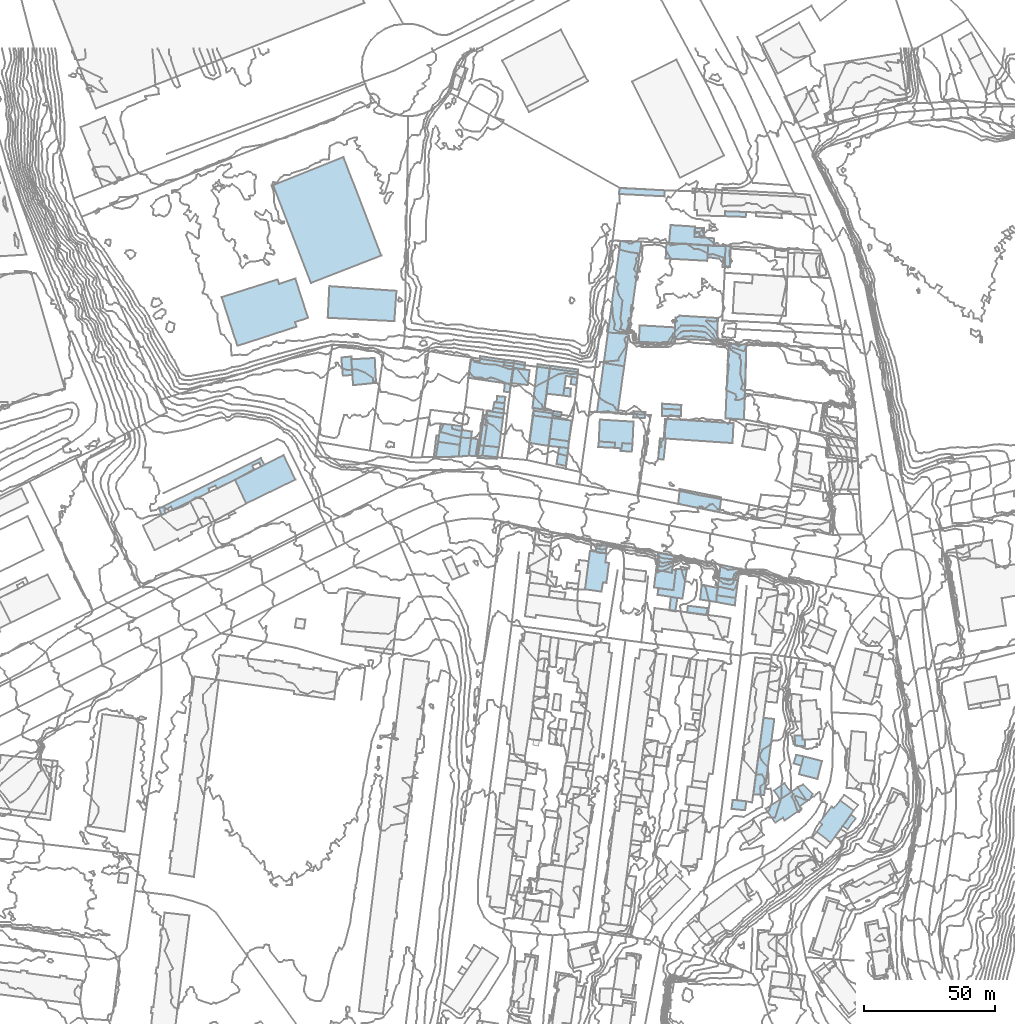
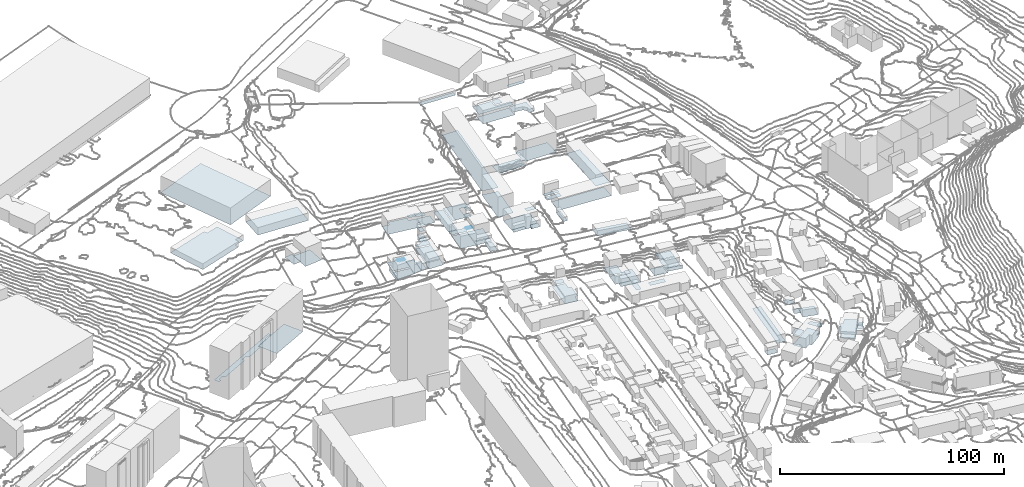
# Not in any storey, part 20 of 419: 74 footings.
"""IFC2X3 model written with IfcOpenShell, lengths in metres."""

from ifc_helpers import new_model, si_unit, frame, origin_with_axes, place, context, subcontext, project, faceted_brep, element, save


model = new_model("IFC2X3")

# Units and contexts
model_context = context("Model", 3, precision=1e-05, world=origin_with_axes())
body_context = subcontext(model_context, "Body", "Model", "MODEL_VIEW")
ifc_project = project(units=[si_unit("AREAUNIT", "SQUARE_METRE"), si_unit("LENGTHUNIT", "METRE")], contexts=[model_context])

# Footings
footing_1_placement = place(None, frame((546.1920204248, 951.8976909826, 48.9189990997), z_axis=(0.0, 0.0, 1.0), x_axis=(1.0, 0.0, 0.0)))
element("IfcFooting", 1, at=footing_1_placement, Name="Sol 0", PredefinedType="STRIP_FOOTING", context=body_context, shape_type="Brep", body=[
    faceted_brep([(0.0, 0.0, 0.0), (0.3, 6.0, 0.0), (16.3, 5.0999999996, 0.0), (15.9, -0.9000000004, 0.0)], [[[0, 1, 2]], [[2, 3, 0]]]),
])
footing_2_placement = place(None, frame((458.1920204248, 875.7976909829, 41.0071994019), z_axis=(0.0, 0.0, 1.0), x_axis=(1.0, 0.0, 0.0)))
element("IfcFooting", 2, at=footing_2_placement, Name="Sol 0", PredefinedType="STRIP_FOOTING", context=body_context, shape_type="Brep", body=[
    faceted_brep([(8.7000000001, 0.1999999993, 0.0), (0.0, 0.0, 0.0), (0.9, 5.8999999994, 0.0), (9.2000000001, 4.6999999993, 0.0)], [[[0, 1, 2]], [[2, 3, 0]]]),
])
footing_3_placement = place(None, frame((425.7920204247, 913.2976909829, 42.4510005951), z_axis=(0.0, 0.0, 1.0), x_axis=(1.0, 0.0, 0.0)))
element("IfcFooting", 3, at=footing_3_placement, Name="Sol 0", PredefinedType="STRIP_FOOTING", context=body_context, shape_type="Brep", body=[
    faceted_brep([(9.5, -9.0, 0.0), (0.7000000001, -9.9000000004, 0.0), (0.5, -6.6000000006, 0.0), (0.0, 0.0, 0.0), (9.0, 0.5, 0.0)], [[[0, 1, 2]], [[3, 4, 0]], [[0, 2, 3]]]),
])
footing_4_placement = place(None, frame((545.4920204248, 882.9976909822, 43.7359992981), z_axis=(0.0, 0.0, 1.0), x_axis=(1.0, 0.0, 0.0)))
element("IfcFooting", 4, at=footing_4_placement, Name="Sol 0", PredefinedType="STRIP_FOOTING", context=body_context, shape_type="Brep", body=[
    faceted_brep([(26.2999999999, -1.7999999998, 0.0), (0.0, 0.0, 0.0), (0.5, 7.5, 0.0), (26.7, 5.8000000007, 0.0)], [[[0, 1, 2]], [[2, 3, 0]]]),
])
footing_5_placement = place(None, frame((547.5920204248, 817.0976909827, 39.4159999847), z_axis=(0.0, 0.0, 1.0), x_axis=(1.0, 0.0, 0.0)))
element("IfcFooting", 5, at=footing_5_placement, Name="Sol 0", PredefinedType="STRIP_FOOTING", context=body_context, shape_type="Brep", body=[
    faceted_brep([(2.3, -0.2999999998, 0.0), (0.0, 0.0, 0.0), (0.6, 5.2000000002, 0.0), (3.1, 4.7000000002, 0.0)], [[[0, 1, 2]], [[2, 3, 0]]]),
])
footing_6_placement = place(None, frame((459.0920204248, 881.6976909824, 41.6847983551), z_axis=(0.0, 0.0, 1.0), x_axis=(1.0, 0.0, 0.0)))
element("IfcFooting", 6, at=footing_6_placement, Name="Sol 0", PredefinedType="STRIP_FOOTING", context=body_context, shape_type="Brep", body=[
    faceted_brep([(9.0, 4.1000000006, 0.0), (8.3, -1.2000000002, 0.0), (0.0, 0.0, 0.0), (0.9, 6.9000000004, 0.0), (5.3, 6.5, 0.0), (5.2, 5.0, 0.0)], [[[0, 1, 2]], [[3, 4, 5]], [[5, 0, 2]], [[2, 3, 5]]]),
])
footing_7_placement = place(None, frame((542.5920204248, 832.6976909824, 39.8529987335), z_axis=(0.0, 0.0, 1.0), x_axis=(1.0, 0.0, 0.0)))
element("IfcFooting", 7, at=footing_7_placement, Name="Sol 0", PredefinedType="STRIP_FOOTING", context=body_context, shape_type="Brep", body=[
    faceted_brep([(0.0, 0.0, 0.0), (0.8, 6.4000000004, 0.0), (6.8, 5.2999999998, 0.0), (6.0, -1.2000000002, 0.0)], [[[0, 1, 2]], [[2, 3, 0]]]),
])
footing_8_placement = place(None, frame((395.8920204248, 979.9976909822, 47.0405998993), z_axis=(0.0, 0.0, 1.0), x_axis=(1.0, 0.0, 0.0)))
element("IfcFooting", 8, at=footing_8_placement, Name="Sol 0", PredefinedType="STRIP_FOOTING", context=body_context, shape_type="Brep", body=[
    faceted_brep([(41.3999999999, -26.8999999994, 0.0), (14.5, -37.3999999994, 0.0), (0.0, 0.0, 0.0), (26.8999999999, 10.8000000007, 0.0)], [[[0, 1, 2]], [[2, 3, 0]]]),
])
footing_9_placement = place(None, frame((533.7920204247, 890.9976909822, 42.5391987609), z_axis=(0.0, 0.0, 1.0), x_axis=(1.0, 0.0, 0.0)))
element("IfcFooting", 9, at=footing_9_placement, Name="Sol 0", PredefinedType="STRIP_FOOTING", context=body_context, shape_type="Brep", body=[
    faceted_brep([(0.1000000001, 2.4000000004, 0.0), (4.7000000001, 2.1000000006, 0.0), (4.4, -0.1999999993, 0.0), (0.0, 0.0, 0.0)], [[[0, 1, 2]], [[2, 3, 0]]]),
])
footing_10_placement = place(None, frame((544.7920204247, 891.5976909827, 44.2845994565), z_axis=(0.0, 0.0, 1.0), x_axis=(1.0, 0.0, 0.0)))
element("IfcFooting", 10, at=footing_10_placement, Name="Sol 0", PredefinedType="STRIP_FOOTING", context=body_context, shape_type="Brep", body=[
    faceted_brep([(0.0, 2.7999999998, 0.0), (7.3, 2.3999999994, 0.0), (7.2000000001, -0.1000000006, 0.0), (0.0, 0.0, 0.0)], [[[0, 1, 2]], [[2, 3, 0]]]),
])
footing_11_placement = place(None, frame((579.7920204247, 746.6976909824, 41.7746002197), z_axis=(0.0, 0.0, 1.0), x_axis=(1.0, 0.0, 0.0)))
element("IfcFooting", 11, at=footing_11_placement, Name="Sol 0", PredefinedType="STRIP_FOOTING", context=body_context, shape_type="Brep", body=[
    faceted_brep([(4.1000000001, -0.2999999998, 0.0), (0.0, 0.0, 0.0), (3.9, 29.2999999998, 0.0), (8.0, 28.7999999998, 0.0)], [[[0, 1, 2]], [[2, 3, 0]]]),
])
footing_12_placement = place(None, frame((480.1920204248, 894.7976909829, 42.2463998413), z_axis=(0.0, 0.0, 1.0), x_axis=(1.0, 0.0, 0.0)))
element("IfcFooting", 12, at=footing_12_placement, Name="Sol 0", PredefinedType="STRIP_FOOTING", context=body_context, shape_type="Brep", body=[
    faceted_brep([(4.3, 1.6999999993, 0.0), (4.1, -0.7000000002, 0.0), (0.0, 0.0, 0.0), (0.4, 2.0999999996, 0.0)], [[[0, 1, 2]], [[2, 3, 0]]]),
])
footing_13_placement = place(None, frame((550.9920204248, 857.8976909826, 43.0979988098), z_axis=(0.0, 0.0, 1.0), x_axis=(1.0, 0.0, 0.0)))
element("IfcFooting", 13, at=footing_13_placement, Name="Sol 0", PredefinedType="STRIP_FOOTING", context=body_context, shape_type="Brep", body=[
    faceted_brep([(0.0, 0.0, 0.0), (0.6, 5.7000000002, 0.0), (16.5, 2.5, 0.0), (15.7999999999, -3.0999999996, 0.0)], [[[0, 1, 2]], [[2, 3, 0]]]),
])
footing_14_placement = place(None, frame((500.4920204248, 900.0976909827, 43.4157009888), z_axis=(0.0, 0.0, 1.0), x_axis=(1.0, 0.0, 0.0)))
element("IfcFooting", 14, at=footing_14_placement, Name="Sol 0", PredefinedType="STRIP_FOOTING", context=body_context, shape_type="Brep", body=[
    faceted_brep([(6.5, -0.7000000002, 0.0), (0.0, 0.0, 0.0), (1.4, 10.7000000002, 0.0), (12.2, 9.2999999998, 0.0), (11.7999999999, 6.0999999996, 0.0), (7.5, 6.7999999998, 0.0)], [[[0, 1, 2]], [[3, 4, 5]], [[5, 0, 2]], [[2, 3, 5]]]),
])
footing_15_placement = place(None, frame((501.6920204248, 882.8976909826, 42.2700004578), z_axis=(0.0, 0.0, 1.0), x_axis=(1.0, 0.0, 0.0)))
element("IfcFooting", 15, at=footing_15_placement, Name="Sol 0", PredefinedType="STRIP_FOOTING", context=body_context, shape_type="Brep", body=[
    faceted_brep([(7.4, -1.0, 0.0), (0.0, 0.0, 0.0), (1.0, 7.9000000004, 0.0), (8.5, 6.9000000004, 0.0)], [[[0, 1, 2]], [[2, 3, 0]]]),
])
footing_16_placement = place(None, frame((595.5920204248, 769.1976909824, 45.8778006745), z_axis=(0.0, 0.0, 1.0), x_axis=(1.0, 0.0, 0.0)))
element("IfcFooting", 16, at=footing_16_placement, Name="Sol 0", PredefinedType="STRIP_FOOTING", context=body_context, shape_type="Brep", body=[
    faceted_brep([(3.0, -1.5999999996, 0.0), (4.0, -1.5999999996, 0.0), (4.0, -4.0, 0.0), (0.0, 0.0, 0.0), (3.0, 0.0, 0.0), (0.2, -3.8999999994, 0.0)], [[[0, 1, 2]], [[3, 4, 0]], [[2, 5, 3]], [[3, 0, 2]]]),
])
footing_17_placement = place(None, frame((613.8920204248, 734.4976909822, 45.300499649), z_axis=(0.0, 0.0, 1.0), x_axis=(1.0, 0.0, 0.0)))
element("IfcFooting", 17, at=footing_17_placement, Name="Sol 0", PredefinedType="STRIP_FOOTING", context=body_context, shape_type="Brep", body=[
    faceted_brep([(0.0, 0.0, 0.0), (3.2999999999, 4.4000000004, 0.0), (5.0, 3.0, 0.0), (1.8999999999, -1.2999999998, 0.0)], [[[0, 1, 2]], [[2, 3, 0]]]),
])
footing_18_placement = place(None, frame((596.7920204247, 749.4976909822, 44.927999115), z_axis=(0.0, 0.0, 1.0), x_axis=(1.0, 0.0, 0.0)))
element("IfcFooting", 18, at=footing_18_placement, Name="Sol 0", PredefinedType="STRIP_FOOTING", context=body_context, shape_type="Brep", body=[
    faceted_brep([(3.6000000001, -5.3999999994, 0.0), (0.0, 0.0, 0.0), (2.1000000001, 0.9000000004, 0.0), (5.6000000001, -2.5999999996, 0.0), (5.0, -4.0999999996, 0.0)], [[[0, 1, 2]], [[3, 4, 0]], [[0, 2, 3]]]),
])
footing_19_placement = place(None, frame((484.2920204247, 900.8976909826, 42.6344995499), z_axis=(0.0, 0.0, 1.0), x_axis=(1.0, 0.0, 0.0)))
element("IfcFooting", 19, at=footing_19_placement, Name="Sol 0", PredefinedType="STRIP_FOOTING", context=body_context, shape_type="Brep", body=[
    faceted_brep([(2.5, 2.9000000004, 0.0), (2.2000000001, -0.2000000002, 0.0), (0.0, 0.0, 0.0), (0.3, 3.2999999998, 0.0)], [[[0, 1, 2]], [[2, 3, 0]]]),
])
footing_20_placement = place(None, frame((566.5920204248, 829.5976909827, 41.7505994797), z_axis=(0.0, 0.0, 1.0), x_axis=(1.0, 0.0, 0.0)))
element("IfcFooting", 20, at=footing_20_placement, Name="Sol 0", PredefinedType="STRIP_FOOTING", context=body_context, shape_type="Brep", body=[
    faceted_brep([(0.0, 0.0, 0.0), (0.7, 5.0, 0.0), (7.9, 3.5, 0.0), (7.3, -0.9000000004, 0.0)], [[[0, 1, 2]], [[2, 3, 0]]]),
])
footing_21_placement = place(None, frame((543.2920204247, 875.0976909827, 43.1939998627), z_axis=(0.0, 0.0, 1.0), x_axis=(1.0, 0.0, 0.0)))
element("IfcFooting", 21, at=footing_21_placement, Name="Sol 0", PredefinedType="STRIP_FOOTING", context=body_context, shape_type="Brep", body=[
    faceted_brep([(0.7000000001, 7.8999999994, 0.0), (2.2000000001, 7.8999999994, 0.0), (3.0, 7.7999999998, 0.0), (2.1000000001, -0.2000000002, 0.0), (0.0, 0.0, 0.0)], [[[0, 1, 2]], [[3, 4, 0]], [[0, 2, 3]]]),
])
footing_22_placement = place(None, frame((528.3920204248, 976.5976909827, 50.4814996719), z_axis=(0.0, 0.0, 1.0), x_axis=(1.0, 0.0, 0.0)))
element("IfcFooting", 22, at=footing_22_placement, Name="Sol 0", PredefinedType="STRIP_FOOTING", context=body_context, shape_type="Brep", body=[
    faceted_brep([(17.2999999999, -0.9000000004, 0.0), (0.0, 0.0, 0.0), (0.1, 2.2999999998, 0.0), (17.5, 1.3999999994, 0.0)], [[[0, 1, 2]], [[2, 3, 0]]]),
])
footing_23_placement = place(None, frame((495.2920204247, 891.7976909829, 42.5880012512), z_axis=(0.0, 0.0, 1.0), x_axis=(1.0, 0.0, 0.0)))
element("IfcFooting", 23, at=footing_23_placement, Name="Sol 0", PredefinedType="STRIP_FOOTING", context=body_context, shape_type="Brep", body=[
    faceted_brep([(7.8, 1.6999999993, 0.0), (7.4, -1.0, 0.0), (0.0, 0.0, 0.0), (0.4, 2.7999999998, 0.0)], [[[0, 1, 2]], [[2, 3, 0]]]),
])
footing_24_placement = place(None, frame((506.9920204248, 899.3976909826, 43.2331013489), z_axis=(0.0, 0.0, 1.0), x_axis=(1.0, 0.0, 0.0)))
element("IfcFooting", 24, at=footing_24_placement, Name="Sol 0", PredefinedType="STRIP_FOOTING", context=body_context, shape_type="Brep", body=[
    faceted_brep([(0.0, 0.0, 0.0), (0.4, 3.0, 0.0), (2.9, 2.7000000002, 0.0), (2.7, -0.4000000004, 0.0)], [[[0, 1, 2]], [[2, 3, 0]]]),
])
footing_25_placement = place(None, frame((502.7920204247, 891.7976909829, 43.0129997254), z_axis=(0.0, 0.0, 1.0), x_axis=(1.0, 0.0, 0.0)))
element("IfcFooting", 25, at=footing_25_placement, Name="Sol 0", PredefinedType="STRIP_FOOTING", context=body_context, shape_type="Brep", body=[
    faceted_brep([(3.2000000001, -0.5, 0.0), (0.0, 0.0, 0.0), (0.3, 1.6999999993, 0.0), (3.5, 1.1999999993, 0.0)], [[[0, 1, 2]], [[2, 3, 0]]]),
])
footing_26_placement = place(None, frame((568.7920204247, 968.0976909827, 51.176399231), z_axis=(0.0, 0.0, 1.0), x_axis=(1.0, 0.0, 0.0)))
element("IfcFooting", 26, at=footing_26_placement, Name="Sol 0", PredefinedType="STRIP_FOOTING", context=body_context, shape_type="Brep", body=[
    faceted_brep([(0.2000000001, 1.8999999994, 0.0), (8.3, 1.5999999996, 0.0), (8.0, -0.2999999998, 0.0), (0.0, 0.0, 0.0)], [[[0, 1, 2]], [[2, 3, 0]]]),
])
footing_27_placement = place(None, frame((504.3920204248, 873.1976909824, 41.6864009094), z_axis=(0.0, 0.0, 1.0), x_axis=(1.0, 0.0, 0.0)))
element("IfcFooting", 27, at=footing_27_placement, Name="Sol 0", PredefinedType="STRIP_FOOTING", context=body_context, shape_type="Brep", body=[
    faceted_brep([(3.5, -0.7999999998, 0.0), (0.0, 0.0, 0.0), (1.0, 6.4000000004, 0.0), (4.5, 6.1000000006, 0.0)], [[[0, 1, 2]], [[2, 3, 0]]]),
])
footing_28_placement = place(None, frame((495.1920204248, 894.6976909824, 42.6488001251), z_axis=(0.0, 0.0, 1.0), x_axis=(1.0, 0.0, 0.0)))
element("IfcFooting", 28, at=footing_28_placement, Name="Sol 0", PredefinedType="STRIP_FOOTING", context=body_context, shape_type="Brep", body=[
    faceted_brep([(6.7000000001, 16.1000000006, 0.0), (4.5, -0.7000000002, 0.0), (0.0, 0.0, 0.0), (1.9, 16.7000000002, 0.0)], [[[0, 1, 2]], [[2, 3, 0]]]),
])
footing_29_placement = place(None, frame((501.2920204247, 880.0976909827, 42.0417996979), z_axis=(0.0, 0.0, 1.0), x_axis=(1.0, 0.0, 0.0)))
element("IfcFooting", 29, at=footing_29_placement, Name="Sol 0", PredefinedType="STRIP_FOOTING", context=body_context, shape_type="Brep", body=[
    faceted_brep([(7.6000000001, -0.7999999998, 0.0), (0.0, 0.0, 0.0), (0.4, 2.7999999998, 0.0), (7.8, 1.7999999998, 0.0)], [[[0, 1, 2]], [[2, 3, 0]]]),
])
footing_30_placement = place(None, frame((477.3920204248, 891.9976909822, 42.0708004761), z_axis=(0.0, 0.0, 1.0), x_axis=(1.0, 0.0, 0.0)))
element("IfcFooting", 30, at=footing_30_placement, Name="Sol 0", PredefinedType="STRIP_FOOTING", context=body_context, shape_type="Brep", body=[
    faceted_brep([(6.8999999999, 2.1000000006, 0.0), (6.5, -1.1999999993, 0.0), (0.0, 0.0, 0.0), (2.5, 1.5, 0.0), (2.7999999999, 2.8000000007, 0.0), (0.2999999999, 1.7000000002, 0.0)], [[[0, 1, 2]], [[3, 4, 0]], [[2, 5, 3]], [[3, 0, 2]]]),
])
footing_31_placement = place(None, frame((528.7920204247, 879.1976909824, 42.4230003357), z_axis=(0.0, 0.0, 1.0), x_axis=(1.0, 0.0, 0.0)))
element("IfcFooting", 31, at=footing_31_placement, Name="Sol 0", PredefinedType="STRIP_FOOTING", context=body_context, shape_type="Brep", body=[
    faceted_brep([(0.8, 2.0, 0.0), (4.7000000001, 1.7000000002, 0.0), (4.4, -1.2999999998, 0.0), (0.1000000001, -1.0, 0.0), (0.0, 0.0, 0.0), (0.5, 0.0, 0.0)], [[[0, 1, 2]], [[3, 4, 5]], [[5, 0, 2]], [[2, 3, 5]]]),
])
footing_32_placement = place(None, frame((522.4920204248, 911.8976909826, 44.8530002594), z_axis=(0.0, 0.0, 1.0), x_axis=(1.0, 0.0, 0.0)))
element("IfcFooting", 32, at=footing_32_placement, Name="Sol 0", PredefinedType="STRIP_FOOTING", context=body_context, shape_type="Brep", body=[
    faceted_brep([(6.4, 46.7000000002, 0.0), (14.4, 46.5, 0.0), (7.7999999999, -1.2999999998, 0.0), (0.0, 0.0, 0.0)], [[[0, 1, 2]], [[2, 3, 0]]]),
])
footing_33_placement = place(None, frame((509.7920204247, 903.7976909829, 43.3439994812), z_axis=(0.0, 0.0, 1.0), x_axis=(1.0, 0.0, 0.0)))
element("IfcFooting", 33, at=footing_33_placement, Name="Sol 0", PredefinedType="STRIP_FOOTING", context=body_context, shape_type="Brep", body=[
    faceted_brep([(0.4, 2.7999999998, 0.0), (2.5, 2.3999999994, 0.0), (2.2000000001, -0.4000000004, 0.0), (0.0, 0.0, 0.0)], [[[0, 1, 2]], [[2, 3, 0]]]),
])
footing_34_placement = place(None, frame((547.4920204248, 957.7976909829, 50.0370014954), z_axis=(0.0, 0.0, 1.0), x_axis=(1.0, 0.0, 0.0)))
element("IfcFooting", 34, at=footing_34_placement, Name="Sol 0", PredefinedType="STRIP_FOOTING", context=body_context, shape_type="Brep", body=[
    faceted_brep([(17.2999999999, 1.7999999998, 0.0), (17.2, -1.0, 0.0), (0.0, 0.0, 0.0), (0.6, 6.8999999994, 0.0), (9.9, 6.2999999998, 0.0), (9.7, 2.3999999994, 0.0)], [[[0, 1, 2]], [[3, 4, 5]], [[5, 0, 2]], [[2, 3, 5]]]),
])
footing_35_placement = place(None, frame((519.8920204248, 893.0976909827, 42.8270998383), z_axis=(0.0, 0.0, 1.0), x_axis=(1.0, 0.0, 0.0)))
element("IfcFooting", 35, at=footing_35_placement, Name="Sol 0", PredefinedType="STRIP_FOOTING", context=body_context, shape_type="Brep", body=[
    faceted_brep([(10.3999999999, 17.5, 0.0), (7.8999999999, -0.2999999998, 0.0), (0.0, 0.0, 0.0), (2.6, 18.7999999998, 0.0)], [[[0, 1, 2]], [[2, 3, 0]]]),
])
footing_36_placement = place(None, frame((470.7920204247, 876.3976909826, 41.2335997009), z_axis=(0.0, 0.0, 1.0), x_axis=(1.0, 0.0, 0.0)))
element("IfcFooting", 36, at=footing_36_placement, Name="Sol 0", PredefinedType="STRIP_FOOTING", context=body_context, shape_type="Brep", body=[
    faceted_brep([(2.6000000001, -0.2000000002, 0.0), (0.0, 0.0, 0.0), (0.9, 6.7000000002, 0.0), (3.6000000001, 6.2000000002, 0.0)], [[[0, 1, 2]], [[2, 3, 0]]]),
])
footing_37_placement = place(None, frame((595.1920204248, 758.4976909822, 45.4780004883), z_axis=(0.0, 0.0, 1.0), x_axis=(1.0, 0.0, 0.0)))
element("IfcFooting", 37, at=footing_37_placement, Name="Sol 0", PredefinedType="STRIP_FOOTING", context=body_context, shape_type="Brep", body=[
    faceted_brep([(3.8, 2.7000000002, 0.0), (2.9, -0.7999999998, 0.0), (0.0, 0.0, 0.0), (1.0, 3.3000000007, 0.0)], [[[0, 1, 2]], [[2, 3, 0]]]),
])
footing_38_placement = place(None, frame((416.7920204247, 929.1976909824, 47.2854008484), z_axis=(0.0, 0.0, 1.0), x_axis=(1.0, 0.0, 0.0)))
element("IfcFooting", 38, at=footing_38_placement, Name="Sol 0", PredefinedType="STRIP_FOOTING", context=body_context, shape_type="Brep", body=[
    faceted_brep([(25.5, -1.2999999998, 0.0), (0.0, 0.0, 0.0), (0.6000000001, 12.1000000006, 0.0), (26.3, 10.2999999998, 0.0)], [[[0, 1, 2]], [[2, 3, 0]]]),
])
footing_39_placement = place(None, frame((515.2920204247, 825.1976909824, 38.3253993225), z_axis=(0.0, 0.0, 1.0), x_axis=(1.0, 0.0, 0.0)))
element("IfcFooting", 39, at=footing_39_placement, Name="Sol 0", PredefinedType="STRIP_FOOTING", context=body_context, shape_type="Brep", body=[
    faceted_brep([(6.3, -0.8999999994, 0.0), (0.0, 0.0, 0.0), (1.4, 10.7999999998, 0.0), (9.2000000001, 10.1000000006, 0.0), (8.2000000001, 2.5, 0.0), (6.9, 2.7000000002, 0.0), (1.9, 14.7000000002, 0.0), (8.3, 13.7999999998, 0.0), (7.8, 10.2999999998, 0.0)], [[[0, 1, 2]], [[3, 4, 5]], [[6, 7, 8]], [[0, 2, 6]], [[8, 3, 5]], [[0, 6, 8]], [[8, 5, 0]]]),
])
footing_40_placement = place(None, frame((352.1920204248, 856.1976909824, 35.1541996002), z_axis=(0.0, 0.0, 1.0), x_axis=(1.0, 0.0, 0.0)))
element("IfcFooting", 40, at=footing_40_placement, Name="Sol 0", PredefinedType="STRIP_FOOTING", context=body_context, shape_type="Brep", body=[
    faceted_brep([(39.0, 19.2999999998, 0.0), (40.4, 16.7999999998, 0.0), (39.1, 16.1000000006, 0.0), (2.4, -1.8999999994, 0.0), (1.0, -2.5, 0.0), (0.0, 0.0, 0.0), (19.3, 6.2999999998, 0.0), (5.3, -0.5999999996, 0.0), (4.6, 0.7000000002, 0.0), (29.1, 11.0, 0.0), (22.3, 7.6000000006, 0.0), (21.6, 8.7999999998, 0.0), (35.7000000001, 16.4000000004, 0.0), (36.3, 15.0, 0.0), (38.4, 17.6000000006, 0.0), (2.1, -0.7000000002, 0.0), (19.0, 7.6000000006, 0.0)], [[[0, 1, 2]], [[3, 4, 5]], [[6, 7, 8]], [[9, 10, 11]], [[12, 13, 9]], [[0, 2, 14]], [[15, 3, 5]], [[16, 6, 8]], [[12, 9, 11]], [[0, 14, 12]], [[8, 15, 5]], [[12, 11, 16]], [[5, 0, 12]], [[16, 8, 5]], [[5, 12, 16]]]),
])
footing_41_placement = place(None, frame((565.6920204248, 822.8976909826, 41.4136007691), z_axis=(0.0, 0.0, 1.0), x_axis=(1.0, 0.0, 0.0)))
element("IfcFooting", 41, at=footing_41_placement, Name="Sol 0", PredefinedType="STRIP_FOOTING", context=body_context, shape_type="Brep", body=[
    faceted_brep([(0.0, 0.0, 0.0), (7.3, -1.0, 0.0), (7.0, -3.9000000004, 0.0), (0.1, -2.5999999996, 0.0)], [[[0, 1, 2]], [[2, 3, 0]]]),
])
footing_42_placement = place(None, frame((544.7920204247, 894.3976909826, 44.8368000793), z_axis=(0.0, 0.0, 1.0), x_axis=(1.0, 0.0, 0.0)))
element("IfcFooting", 42, at=footing_42_placement, Name="Sol 0", PredefinedType="STRIP_FOOTING", context=body_context, shape_type="Brep", body=[
    faceted_brep([(7.4, 1.4000000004, 0.0), (7.3, -0.4000000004, 0.0), (0.0, 0.0, 0.0), (0.0, 1.9000000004, 0.0)], [[[0, 1, 2]], [[2, 3, 0]]]),
])
footing_43_placement = place(None, frame((557.1920204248, 960.1976909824, 50.6668013), z_axis=(0.0, 0.0, 1.0), x_axis=(1.0, 0.0, 0.0)))
element("IfcFooting", 43, at=footing_43_placement, Name="Sol 0", PredefinedType="STRIP_FOOTING", context=body_context, shape_type="Brep", body=[
    faceted_brep([(0.0, 0.0, 0.0), (0.3, 3.4000000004, 0.0), (3.7000000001, 3.4000000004, 0.0), (3.6, -0.2999999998, 0.0)], [[[0, 1, 2]], [[2, 3, 0]]]),
])
footing_44_placement = place(None, frame((519.2920204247, 839.5976909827, 38.9325999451), z_axis=(0.0, 0.0, 1.0), x_axis=(1.0, 0.0, 0.0)))
element("IfcFooting", 44, at=footing_44_placement, Name="Sol 0", PredefinedType="STRIP_FOOTING", context=body_context, shape_type="Brep", body=[
    faceted_brep([(0.0, 0.0, 0.0), (0.7000000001, 3.0, 0.0), (4.4, 2.2999999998, 0.0), (3.9, -0.7000000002, 0.0)], [[[0, 1, 2]], [[2, 3, 0]]]),
])
footing_45_placement = place(None, frame((535.9920204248, 919.9976909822, 44.891799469), z_axis=(0.0, 0.0, 1.0), x_axis=(1.0, 0.0, 0.0)))
element("IfcFooting", 45, at=footing_45_placement, Name="Sol 0", PredefinedType="STRIP_FOOTING", context=body_context, shape_type="Brep", body=[
    faceted_brep([(0.2, 6.3000000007, 0.0), (13.7999999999, 5.5, 0.0), (13.6, 1.9000000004, 0.0), (13.7999999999, -0.6999999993, 0.0), (0.0, 0.0, 0.0)], [[[0, 1, 2]], [[3, 4, 0]], [[0, 2, 3]]]),
])
footing_46_placement = place(None, frame((487.7920204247, 910.0976909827, 44.0066000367), z_axis=(0.0, 0.0, 1.0), x_axis=(1.0, 0.0, 0.0)))
element("IfcFooting", 46, at=footing_46_placement, Name="Sol 0", PredefinedType="STRIP_FOOTING", context=body_context, shape_type="Brep", body=[
    faceted_brep([(4.2000000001, -0.7999999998, 0.0), (0.0, 0.0, 0.0), (0.3, 2.7000000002, 0.0), (4.5, 1.8999999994, 0.0)], [[[0, 1, 2]], [[2, 3, 0]]]),
])
footing_47_placement = place(None, frame((421.9920204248, 913.9976909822, 42.7140007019), z_axis=(0.0, 0.0, 1.0), x_axis=(1.0, 0.0, 0.0)))
element("IfcFooting", 47, at=footing_47_placement, Name="Sol 0", PredefinedType="STRIP_FOOTING", context=body_context, shape_type="Brep", body=[
    faceted_brep([(0.0, 0.0, 0.0), (4.0, 0.4000000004, 0.0), (3.7999999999, -0.6999999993, 0.0), (4.2999999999, -6.6999999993, 0.0), (0.6, -7.0, 0.0)], [[[0, 1, 2]], [[3, 4, 0]], [[0, 2, 3]]]),
])
footing_48_placement = place(None, frame((562.1920204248, 952.3976909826, 49.4711997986), z_axis=(0.0, 0.0, 1.0), x_axis=(1.0, 0.0, 0.0)))
element("IfcFooting", 48, at=footing_48_placement, Name="Sol 0", PredefinedType="STRIP_FOOTING", context=body_context, shape_type="Brep", body=[
    faceted_brep([(0.0, 0.0, 0.0), (0.3, 4.5999999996, 0.0), (8.9, 4.2000000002, 0.0), (8.6, -3.7999999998, 0.0), (5.8, -3.7999999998, 0.0), (5.9, -2.2999999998, 0.0), (4.5, -0.5999999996, 0.0)], [[[0, 1, 2]], [[3, 4, 5]], [[6, 0, 2]], [[3, 5, 6]], [[6, 2, 3]]]),
])
footing_49_placement = place(None, frame((474.1920204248, 875.4976909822, 41.2408004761), z_axis=(0.0, 0.0, 1.0), x_axis=(1.0, 0.0, 0.0)))
element("IfcFooting", 49, at=footing_49_placement, Name="Sol 0", PredefinedType="STRIP_FOOTING", context=body_context, shape_type="Brep", body=[
    faceted_brep([(8.2000000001, 4.1000000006, 0.0), (7.3, -0.2999999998, 0.0), (0.0, 0.0, 0.0), (0.8, 4.9000000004, 0.0)], [[[0, 1, 2]], [[2, 3, 0]]]),
])
footing_50_placement = place(None, frame((520.3920204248, 879.6976909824, 42.5600013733), z_axis=(0.0, 0.0, 1.0), x_axis=(1.0, 0.0, 0.0)))
element("IfcFooting", 50, at=footing_50_placement, Name="Sol 0", PredefinedType="STRIP_FOOTING", context=body_context, shape_type="Brep", body=[
    faceted_brep([(6.5, 1.7000000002, 0.0), (6.2, -0.2999999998, 0.0), (0.0, 0.0, 0.0), (0.2, 2.1000000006, 0.0)], [[[0, 1, 2]], [[2, 3, 0]]]),
])
footing_51_placement = place(None, frame((559.3920204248, 821.2976909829, 40.6684007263), z_axis=(0.0, 0.0, 1.0), x_axis=(1.0, 0.0, 0.0)))
element("IfcFooting", 51, at=footing_51_placement, Name="Sol 0", PredefinedType="STRIP_FOOTING", context=body_context, shape_type="Brep", body=[
    faceted_brep([(0.6, 5.6999999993, 0.0), (6.8999999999, 4.3999999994, 0.0), (6.2999999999, 1.5999999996, 0.0), (6.3999999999, -1.0, 0.0), (0.0, 0.0, 0.0)], [[[0, 1, 2]], [[3, 4, 0]], [[0, 2, 3]]]),
])
footing_52_placement = place(None, frame((569.0920204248, 890.6976909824, 44.1744997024), z_axis=(0.0, 0.0, 1.0), x_axis=(1.0, 0.0, 0.0)))
element("IfcFooting", 52, at=footing_52_placement, Name="Sol 0", PredefinedType="STRIP_FOOTING", context=body_context, shape_type="Brep", body=[
    faceted_brep([(1.2, 28.5, 0.0), (8.0, 28.2000000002, 0.0), (7.1, -0.5, 0.0), (0.0, 0.0, 0.0)], [[[0, 1, 2]], [[2, 3, 0]]]),
])
footing_53_placement = place(None, frame((470.5920204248, 906.1976909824, 42.7679992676), z_axis=(0.0, 0.0, 1.0), x_axis=(1.0, 0.0, 0.0)))
element("IfcFooting", 53, at=footing_53_placement, Name="Sol 0", PredefinedType="STRIP_FOOTING", context=body_context, shape_type="Brep", body=[
    faceted_brep([(17.2, 4.2999999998, 0.0), (16.2, -2.3999999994, 0.0), (0.0, 0.0, 0.0), (4.6, 8.2999999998, 0.0), (14.0, 6.9000000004, 0.0), (13.6, 4.9000000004, 0.0), (0.9, 6.9000000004, 0.0), (4.4, 6.2999999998, 0.0)], [[[0, 1, 2]], [[3, 4, 5]], [[2, 6, 7]], [[5, 0, 2]], [[7, 3, 5]], [[5, 2, 7]]]),
])
footing_54_placement = place(None, frame((484.1920204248, 911.0976909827, 44.0698001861), z_axis=(0.0, 0.0, 1.0), x_axis=(1.0, 0.0, 0.0)))
element("IfcFooting", 54, at=footing_54_placement, Name="Sol 0", PredefinedType="STRIP_FOOTING", context=body_context, shape_type="Brep", body=[
    faceted_brep([(3.9, 1.7000000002, 0.0), (3.6, -0.6000000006, 0.0), (0.0, 0.0, 0.0), (0.4, 2.0, 0.0)], [[[0, 1, 2]], [[2, 3, 0]]]),
])
footing_55_placement = place(None, frame((493.8920204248, 881.2976909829, 42.0278996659), z_axis=(0.0, 0.0, 1.0), x_axis=(1.0, 0.0, 0.0)))
element("IfcFooting", 55, at=footing_55_placement, Name="Sol 0", PredefinedType="STRIP_FOOTING", context=body_context, shape_type="Brep", body=[
    faceted_brep([(8.7999999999, 9.5, 0.0), (7.3999999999, -1.2000000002, 0.0), (0.0, 0.0, 0.0), (1.3999999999, 10.5, 0.0)], [[[0, 1, 2]], [[2, 3, 0]]]),
])
footing_56_placement = place(None, frame((376.1920204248, 937.0976909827, 47.1326005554), z_axis=(0.0, 0.0, 1.0), x_axis=(1.0, 0.0, 0.0)))
element("IfcFooting", 56, at=footing_56_placement, Name="Sol 0", PredefinedType="STRIP_FOOTING", context=body_context, shape_type="Brep", body=[
    faceted_brep([(6.0, -18.6000000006, 0.0), (0.0, 0.0, 0.0), (21.4, 6.7999999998, 0.0), (28.1, -9.5, 0.0), (28.7000000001, -11.2999999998, 0.0), (28.2000000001, 7.2000000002, 0.0), (33.1, -7.9000000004, 0.0), (22.0, 5.0999999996, 0.0)], [[[0, 1, 2]], [[3, 4, 0]], [[5, 6, 3]], [[0, 2, 7]], [[5, 3, 0]], [[0, 7, 5]]]),
])
footing_57_placement = place(None, frame((464.2920204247, 886.6976909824, 42.165001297), z_axis=(0.0, 0.0, 1.0), x_axis=(1.0, 0.0, 0.0)))
element("IfcFooting", 57, at=footing_57_placement, Name="Sol 0", PredefinedType="STRIP_FOOTING", context=body_context, shape_type="Brep", body=[
    faceted_brep([(4.0, 0.9000000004, 0.0), (3.8, -0.8999999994, 0.0), (0.0, 0.0, 0.0), (0.1000000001, 1.5, 0.0)], [[[0, 1, 2]], [[2, 3, 0]]]),
])
footing_58_placement = place(None, frame((466.8920204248, 875.9976909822, 41.1874002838), z_axis=(0.0, 0.0, 1.0), x_axis=(1.0, 0.0, 0.0)))
element("IfcFooting", 58, at=footing_58_placement, Name="Sol 0", PredefinedType="STRIP_FOOTING", context=body_context, shape_type="Brep", body=[
    faceted_brep([(3.8999999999, 0.4000000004, 0.0), (0.0, 0.0, 0.0), (1.2, 9.8000000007, 0.0), (1.5, 10.2000000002, 0.0), (5.1, 9.6000000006, 0.0)], [[[0, 1, 2]], [[3, 4, 0]], [[0, 2, 3]]]),
])
footing_59_placement = place(None, frame((457.3920204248, 875.8976909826, 41.0071994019), z_axis=(0.0, 0.0, 1.0), x_axis=(1.0, 0.0, 0.0)))
element("IfcFooting", 59, at=footing_59_placement, Name="Sol 0", PredefinedType="STRIP_FOOTING", context=body_context, shape_type="Brep", body=[
    faceted_brep([(0.7999999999, -0.0999999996, 0.0), (0.0, 0.0, 0.0), (1.0, 8.2000000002, 0.0), (2.0, 8.2999999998, 0.0)], [[[0, 1, 2]], [[2, 3, 0]]]),
])
footing_60_placement = place(None, frame((565.6920204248, 822.8976909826, 41.5790000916), z_axis=(0.0, 0.0, 1.0), x_axis=(1.0, 0.0, 0.0)))
element("IfcFooting", 60, at=footing_60_placement, Name="Sol 0", PredefinedType="STRIP_FOOTING", context=body_context, shape_type="Brep", body=[
    faceted_brep([(0.0, 0.0, 0.0), (0.9, 6.7000000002, 0.0), (8.2000000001, 5.7999999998, 0.0), (7.3, -1.0, 0.0)], [[[0, 1, 2]], [[2, 3, 0]]]),
])
footing_61_placement = place(None, frame((520.5920204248, 881.7976909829, 42.4500007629), z_axis=(0.0, 0.0, 1.0), x_axis=(1.0, 0.0, 0.0)))
element("IfcFooting", 61, at=footing_61_placement, Name="Sol 0", PredefinedType="STRIP_FOOTING", context=body_context, shape_type="Brep", body=[
    faceted_brep([(13.3, 7.5999999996, 0.0), (12.9, -0.9000000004, 0.0), (9.0, -0.6000000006, 0.0), (0.0, 0.0, 0.0), (0.4, 8.3999999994, 0.0), (8.2, -2.6000000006, 0.0), (6.0, -2.4000000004, 0.0), (6.3, -0.4000000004, 0.0), (8.7, -2.6000000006, 0.0)], [[[0, 1, 2]], [[3, 4, 0]], [[5, 6, 7]], [[2, 8, 5]], [[7, 3, 0]], [[2, 5, 7]], [[7, 0, 2]]]),
])
footing_62_placement = place(None, frame((543.0920204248, 823.0976909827, 39.3309999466), z_axis=(0.0, 0.0, 1.0), x_axis=(1.0, 0.0, 0.0)))
element("IfcFooting", 62, at=footing_62_placement, Name="Sol 0", PredefinedType="STRIP_FOOTING", context=body_context, shape_type="Brep", body=[
    faceted_brep([(0.0, 0.0, 0.0), (0.3, 2.5, 0.0), (6.1, 1.7999999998, 0.0), (7.0, 9.8999999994, 0.0), (11.2, 9.5999999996, 0.0), (9.5, -1.5, 0.0)], [[[0, 1, 2]], [[3, 4, 5]], [[5, 0, 2]], [[2, 3, 5]]]),
])
footing_63_placement = place(None, frame((541.6920204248, 825.8976909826, 39.3385000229), z_axis=(0.0, 0.0, 1.0), x_axis=(1.0, 0.0, 0.0)))
element("IfcFooting", 63, at=footing_63_placement, Name="Sol 0", PredefinedType="STRIP_FOOTING", context=body_context, shape_type="Brep", body=[
    faceted_brep([(0.0, 0.0, 0.0), (0.9, 6.7999999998, 0.0), (6.9, 5.5999999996, 0.0), (8.4, 6.5999999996, 0.0), (7.5, -1.0, 0.0), (6.9, 6.9000000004, 0.0)], [[[0, 1, 2]], [[3, 4, 0]], [[2, 5, 3]], [[3, 0, 2]]]),
])
footing_64_placement = place(None, frame((554.3920204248, 816.2976909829, 40.1048003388), z_axis=(0.0, 0.0, 1.0), x_axis=(1.0, 0.0, 0.0)))
element("IfcFooting", 64, at=footing_64_placement, Name="Sol 0", PredefinedType="STRIP_FOOTING", context=body_context, shape_type="Brep", body=[
    faceted_brep([(7.8999999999, 1.6999999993, 0.0), (7.2999999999, -1.0, 0.0), (0.0, 0.0, 0.0), (0.2999999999, 2.5999999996, 0.0)], [[[0, 1, 2]], [[2, 3, 0]]]),
])
footing_65_placement = place(None, frame((597.1920204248, 754.3976909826, 45.388199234), z_axis=(0.0, 0.0, 1.0), x_axis=(1.0, 0.0, 0.0)))
element("IfcFooting", 65, at=footing_65_placement, Name="Sol 0", PredefinedType="STRIP_FOOTING", context=body_context, shape_type="Brep", body=[
    faceted_brep([(7.1, -1.7999999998, 0.0), (0.0, 0.0, 0.0), (0.9, 3.2999999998, 0.0), (1.8, 6.7999999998, 0.0), (8.8, 5.0, 0.0)], [[[0, 1, 2]], [[3, 4, 0]], [[0, 2, 3]]]),
])
footing_66_placement = place(None, frame((584.3920204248, 741.1976909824, 42.7331997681), z_axis=(0.0, 0.0, 1.0), x_axis=(1.0, 0.0, 0.0)))
element("IfcFooting", 66, at=footing_66_placement, Name="Sol 0", PredefinedType="STRIP_FOOTING", context=body_context, shape_type="Brep", body=[
    faceted_brep([(3.7999999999, -5.2999999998, 0.0), (0.0, 0.0, 0.0), (5.6, 3.5, 0.0), (13.7999999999, 0.0, 0.0), (7.3999999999, -4.5, 0.0), (6.7, -3.3999999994, 0.0), (12.3999999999, 8.2999999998, 0.0), (16.0, 2.9000000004, 0.0), (13.2, 1.1000000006, 0.0)], [[[0, 1, 2]], [[3, 4, 5]], [[6, 7, 8]], [[0, 2, 6]], [[8, 3, 5]], [[0, 6, 8]], [[8, 5, 0]]]),
])
footing_67_placement = place(None, frame((587.7920204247, 748.1976909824, 43.3900001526), z_axis=(0.0, 0.0, 1.0), x_axis=(1.0, 0.0, 0.0)))
element("IfcFooting", 67, at=footing_67_placement, Name="Sol 0", PredefinedType="STRIP_FOOTING", context=body_context, shape_type="Brep", body=[
    faceted_brep([(6.4, -0.7000000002, 0.0), (2.2000000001, -3.5, 0.0), (0.0, 0.0, 0.0), (3.9, 2.9000000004, 0.0)], [[[0, 1, 2]], [[2, 3, 0]]]),
])
footing_68_placement = place(None, frame((603.9920204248, 732.2976909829, 45.0269996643), z_axis=(0.0, 0.0, 1.0), x_axis=(1.0, 0.0, 0.0)))
element("IfcFooting", 68, at=footing_68_placement, Name="Sol 0", PredefinedType="STRIP_FOOTING", context=body_context, shape_type="Brep", body=[
    faceted_brep([(14.1, 8.1999999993, 0.0), (5.4, -4.1000000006, 0.0), (0.0, 0.0, 0.0), (6.5, 9.0999999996, 0.0), (9.0, 12.0, 0.0), (1.1, 3.6999999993, 0.0), (5.7, 9.6999999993, 0.0), (2.1, 2.8999999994, 0.0)], [[[0, 1, 2]], [[3, 4, 0]], [[5, 6, 3]], [[0, 2, 7]], [[5, 3, 0]], [[0, 7, 5]]]),
])
footing_69_placement = place(None, frame((481.3920204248, 896.7976909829, 42.4159994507), z_axis=(0.0, 0.0, 1.0), x_axis=(1.0, 0.0, 0.0)))
element("IfcFooting", 69, at=footing_69_placement, Name="Sol 0", PredefinedType="STRIP_FOOTING", context=body_context, shape_type="Brep", body=[
    faceted_brep([(3.3999999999, 2.0999999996, 0.0), (3.1, -0.3000000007, 0.0), (0.0, 0.0, 0.0), (0.2999999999, 2.3999999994, 0.0)], [[[0, 1, 2]], [[2, 3, 0]]]),
])
footing_70_placement = place(None, frame((571.3920204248, 741.0976909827, 41.7127996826), z_axis=(0.0, 0.0, 1.0), x_axis=(1.0, 0.0, 0.0)))
element("IfcFooting", 70, at=footing_70_placement, Name="Sol 0", PredefinedType="STRIP_FOOTING", context=body_context, shape_type="Brep", body=[
    faceted_brep([(0.5, 3.5, 0.0), (5.7, 2.8999999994, 0.0), (5.2, -0.5, 0.0), (0.0, 0.0, 0.0)], [[[0, 1, 2]], [[2, 3, 0]]]),
])
footing_71_placement = place(None, frame((486.9920204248, 904.1976909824, 43.080800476), z_axis=(0.0, 0.0, 1.0), x_axis=(1.0, 0.0, 0.0)))
element("IfcFooting", 71, at=footing_71_placement, Name="Sol 0", PredefinedType="STRIP_FOOTING", context=body_context, shape_type="Brep", body=[
    faceted_brep([(6.4, -0.7999999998, 0.0), (0.0, 0.0, 0.0), (0.7999999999, 5.9000000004, 0.0), (7.1, 4.9000000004, 0.0)], [[[0, 1, 2]], [[2, 3, 0]]]),
])
footing_72_placement = place(None, frame((474.9920204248, 880.3976909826, 41.5239997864), z_axis=(0.0, 0.0, 1.0), x_axis=(1.0, 0.0, 0.0)))
element("IfcFooting", 72, at=footing_72_placement, Name="Sol 0", PredefinedType="STRIP_FOOTING", context=body_context, shape_type="Brep", body=[
    faceted_brep([(7.4, -0.7999999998, 0.0), (0.0, 0.0, 0.0), (1.7, 11.5, 0.0), (8.9, 10.4000000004, 0.0)], [[[0, 1, 2]], [[2, 3, 0]]]),
])
footing_73_placement = place(None, frame((549.5920204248, 921.8976909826, 45.7330001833), z_axis=(0.0, 0.0, 1.0), x_axis=(1.0, 0.0, 0.0)))
element("IfcFooting", 73, at=footing_73_placement, Name="Sol 0", PredefinedType="STRIP_FOOTING", context=body_context, shape_type="Brep", body=[
    faceted_brep([(1.0, -0.7999999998, 0.0), (0.0, 0.0, 0.0), (0.4, 7.2999999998, 0.0), (16.6, 7.2000000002, 0.0), (16.4, -1.4000000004, 0.0), (2.0, 8.0999999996, 0.0)], [[[0, 1, 2]], [[3, 4, 0]], [[2, 5, 3]], [[3, 0, 2]]]),
])
footing_74_placement = place(None, frame((381.2920204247, 867.1976909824, 36.6640010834), z_axis=(0.0, 0.0, 1.0), x_axis=(1.0, 0.0, 0.0)))
element("IfcFooting", 74, at=footing_74_placement, Name="Sol 0", PredefinedType="STRIP_FOOTING", context=body_context, shape_type="Brep", body=[
    faceted_brep([(0.0, 0.0, 0.0), (11.3, 5.7999999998, 0.0), (18.6000000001, 9.4000000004, 0.0), (23.1000000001, 0.1000000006, 0.0), (4.3, -9.0999999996, 0.0)], [[[0, 1, 2]], [[3, 4, 0]], [[0, 2, 3]]]),
])

save(model, "model.ifc")
